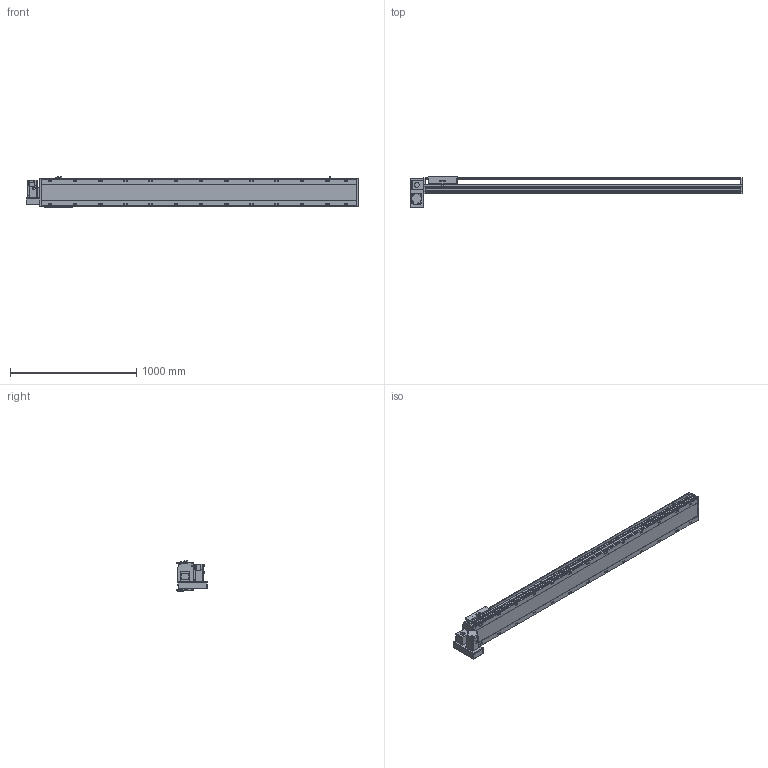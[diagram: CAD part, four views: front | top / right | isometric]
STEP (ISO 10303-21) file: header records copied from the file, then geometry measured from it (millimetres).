
FILE_DESCRIPTION(/* description */ ('STEP AP214'),/* implementation_level */ '2;1');
FILE_NAME(/* name */ 'PBS220-P40-S2150-LD-T75-C1-N(0)',/* time_stamp */ '2022-06-27T09:45:39+02:00',/* author */ ('License CC BY-ND 4.0'),/* organization */ ('CADENAS'),/* preprocessor_version */ 'ST-DEVELOPER v18.102',/* originating_system */ 'PARTsolutions',/* authorisation */ ' ');
FILE_SCHEMA (('AUTOMOTIVE_DESIGN {1 0 10303 214 3 1 1}'));
Length unit declared in the file: millimetre
Products named in the file (7): PBS220-P40-S2150-LD-T75-C1-N(0); PBS220_sensor; PBS220_plant; PBS220_sliser; T75-p1; PBS220T-LD_motors; PBS220-S2150()_body
Assembly tree (8 placements, depth 2):
  PBS220-P40-S2150-LD-T75-C1-N(0)
    PBS220_sensor  x3
    PBS220_plant
    PBS220_sliser
    T75-p1
    PBS220T-LD_motors
    PBS220-S2150()_body
Bounding box: 2634 x 239 x 238.5 mm (x, y, z)
Volume: 36945898 mm3; surface area: 3417962.1 mm2
Topology: 8 solids, 8 shells, 974 faces, 2536 edges, 1648 vertices
Faces by surface type: plane 618, cylinder 306, cone 50
Full cylindrical faces by diameter (mm): 2.013 x4, 4.5 x14, 4.917 x4, 6 x7, 6.647 x8, 8 x10, 8.376 x26, 8.5 x26, 10 x6, 14 x26, 38 x2, 40 x1, 70 x1
Entity records: 27188 total; most frequent: CARTESIAN_POINT 4822, DIRECTION 4725, ORIENTED_EDGE 4286, EDGE_CURVE 2143, AXIS2_PLACEMENT_3D 1685, VERTEX_POINT 1496, LINE 1355, VECTOR 1355
